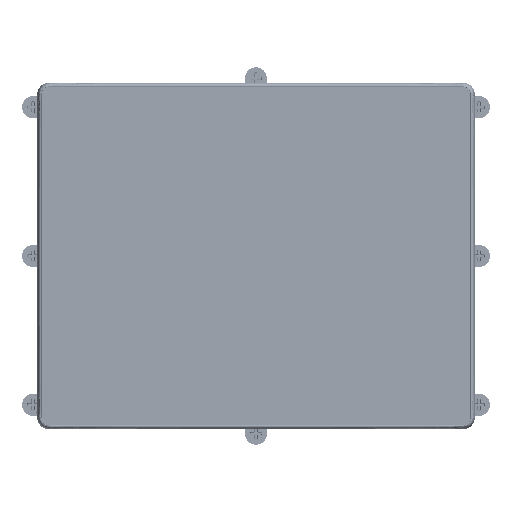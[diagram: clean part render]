
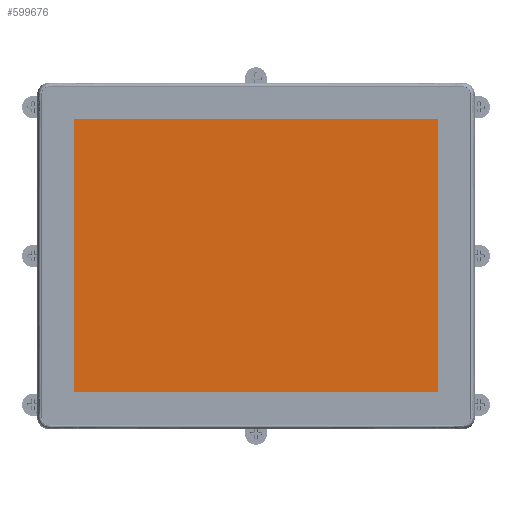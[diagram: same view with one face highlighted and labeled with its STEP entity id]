
A CAD part, top view. The second image highlights one B-rep face of the part: STEP entity #599676.
In plain terms, the highlighted planar face has unit normal (0, 0, 1).
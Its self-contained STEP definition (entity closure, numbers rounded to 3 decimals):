
#183073=DIRECTION('',(0.,-1.,0.));
#183074=VECTOR('',#183073,185.32);
#183075=CARTESIAN_POINT('',(-123.38,92.66,4.79));
#183076=LINE('',#183075,#183074);
#183093=DIRECTION('',(-1.,0.,0.));
#183094=VECTOR('',#183093,246.76);
#183095=CARTESIAN_POINT('',(123.38,92.66,4.79));
#183096=LINE('',#183095,#183094);
#183101=DIRECTION('',(0.,1.,0.));
#183102=VECTOR('',#183101,185.32);
#183103=CARTESIAN_POINT('',(123.38,-92.66,4.79));
#183104=LINE('',#183103,#183102);
#183113=DIRECTION('',(1.,0.,0.));
#183114=VECTOR('',#183113,246.76);
#183115=CARTESIAN_POINT('',(-123.38,-92.66,4.79));
#183116=LINE('',#183115,#183114);
#205189=CARTESIAN_POINT('',(-123.38,92.66,4.79));
#205191=VERTEX_POINT('',#205189);
#205194=CARTESIAN_POINT('',(-123.38,-92.66,4.79));
#205196=VERTEX_POINT('',#205194);
#205198=CARTESIAN_POINT('',(123.38,-92.66,4.79));
#205200=VERTEX_POINT('',#205198);
#205202=CARTESIAN_POINT('',(123.38,92.66,4.79));
#205204=VERTEX_POINT('',#205202);
#599665=CARTESIAN_POINT('',(0.,0.,4.79));
#599666=DIRECTION('',(0.,0.,1.));
#599667=DIRECTION('',(1.,0.,0.));
#599668=AXIS2_PLACEMENT_3D('',#599665,#599666,#599667);
#599669=PLANE('',#599668);
#599670=ORIENTED_EDGE('',*,*,#599588,.F.);
#599671=ORIENTED_EDGE('',*,*,#599612,.F.);
#599672=ORIENTED_EDGE('',*,*,#599631,.F.);
#599673=ORIENTED_EDGE('',*,*,#599651,.F.);
#599674=EDGE_LOOP('',(#599670,#599671,#599672,#599673));
#599675=FACE_OUTER_BOUND('',#599674,.F.);
#599676=ADVANCED_FACE('',(#599675),#599669,.T.);
#599588=EDGE_CURVE('',#205191,#205196,#183076,.T.);
#599612=EDGE_CURVE('',#205204,#205191,#183096,.T.);
#599631=EDGE_CURVE('',#205200,#205204,#183104,.T.);
#599651=EDGE_CURVE('',#205196,#205200,#183116,.T.);
